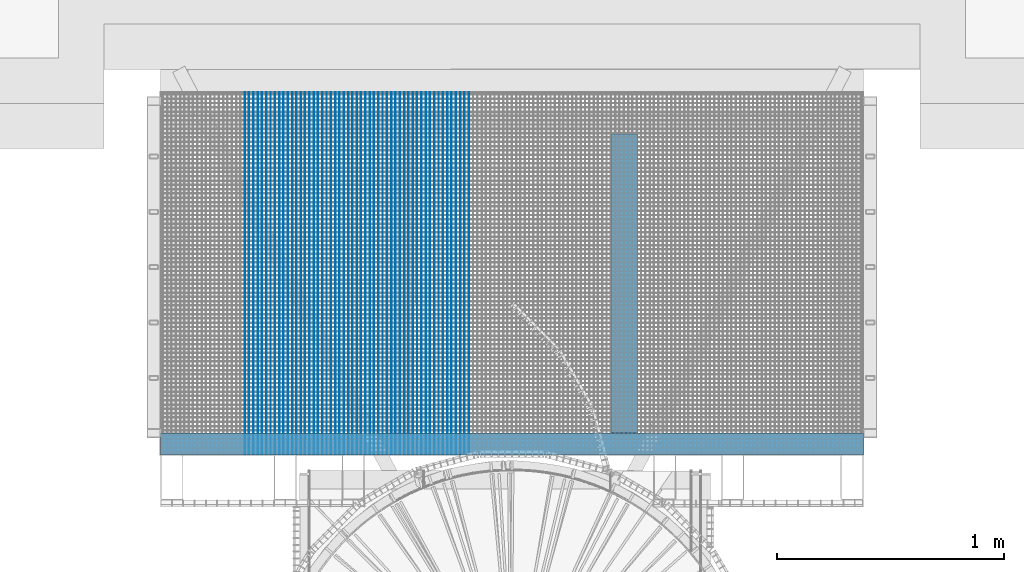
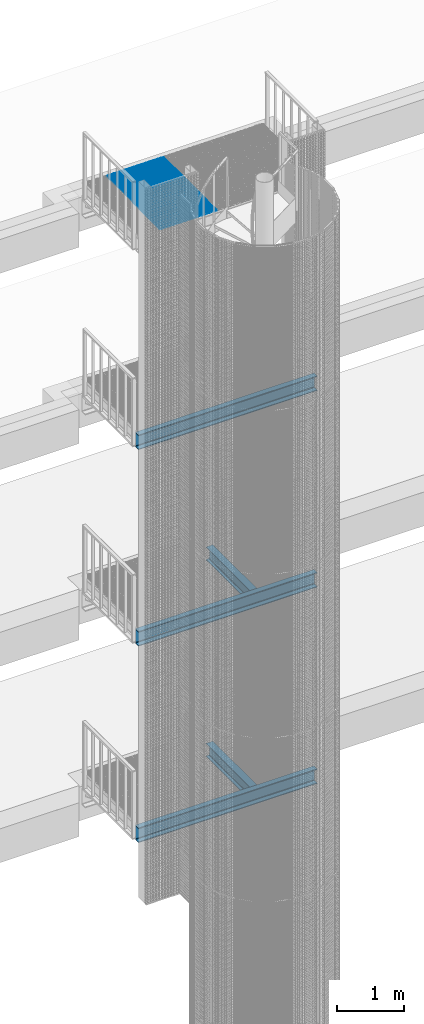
# One storey, part 93 of 1183: 58 beams, 6 elements without a shape of their own.
"""IFC2X3 building model written with IfcOpenShell, lengths in millimetres."""

from ifc_helpers import new_model, si_unit, frame, origin_with_axes, origin_2d_with_axis, place, context, subcontext, project, spatial, rectangle, i_section, u_section, extrude, material, type_object, element, aggregate, save


model = new_model("IFC2X3")

# Units and contexts
model_context = context("Model", 3, precision=1e-05, world=origin_with_axes())
body_context = subcontext(model_context, "Body", "Model", "MODEL_VIEW")
ifc_project = project(units=[si_unit("LENGTHUNIT", "METRE", prefix="MILLI"), si_unit("AREAUNIT", "SQUARE_METRE"), si_unit("VOLUMEUNIT", "CUBIC_METRE"), si_unit("MASSUNIT", "GRAM", prefix="KILO"), si_unit("TIMEUNIT", "SECOND"), si_unit("PLANEANGLEUNIT", "RADIAN"), si_unit("SOLIDANGLEUNIT", "STERADIAN"), si_unit("THERMODYNAMICTEMPERATUREUNIT", "DEGREE_CELSIUS"), si_unit("LUMINOUSINTENSITYUNIT", "LUMEN")], contexts=[model_context])

# Site, building, storey
site_placement = place(None, origin_with_axes())
site = spatial("IfcSite", under=ifc_project, at=site_placement, Name="Undefined", CompositionType="ELEMENT")
building_placement = place(site_placement, origin_with_axes())
building = spatial("IfcBuilding", under=site, at=building_placement, Name="Undefined", CompositionType="ELEMENT")
storey_placement = place(building_placement, origin_with_axes())
storey = spatial("IfcBuildingStorey", under=building, at=storey_placement, Name="Undefined", CompositionType="ELEMENT", Elevation=0.0)

# Assembly, beams
assembly_1_placement = place(storey_placement, origin_with_axes())
assembly_1 = element("IfcElementAssembly", 1, at=assembly_1_placement, inside=storey, Name="BORDURE", AssemblyPlace="NOTDEFINED", PredefinedType="NOTDEFINED")
ifc_material = material(Name="STEEL/S235JR")
beam_type_1 = type_object("IfcBeamType", Name="PL2*10", PredefinedType="NOTDEFINED")
beam_1_placement = place(assembly_1_placement, frame((20422.1154247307, 1101.99652091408, 17285.0), z_axis=(0.0, 0.0, 1.0), x_axis=(-4.50599999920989e-06, 0.999999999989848, 0.0)))
beam_1 = element("IfcBeam", 2, at=beam_1_placement, type_object=beam_type_1, material=ifc_material, Name="ENTRETOISE", context=body_context, shape_type="SweptSolid", body=[
    extrude(rectangle(XDim=2.0, YDim=10.0, at=origin_2d_with_axis()), frame((1596.0000000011, -1.35186458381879e-18, -7.27595761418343e-12), z_axis=(-1.0, 0.0, 0.0), x_axis=(0.0, -1.0, 0.0)), (0.0, 0.0, 1.0), 1596.0),
])
beam_2_placement = place(assembly_1_placement, frame((20441.1154247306, 1101.99661443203, 17285.0), z_axis=(0.0, 0.0, 1.0), x_axis=(-4.50599999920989e-06, 0.999999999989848, 0.0)))
beam_2 = element("IfcBeam", 3, at=beam_2_placement, type_object=beam_type_1, material=ifc_material, Name="ENTRETOISE", context=body_context, shape_type="SweptSolid", body=[
    extrude(rectangle(XDim=2.0, YDim=10.0, at=origin_2d_with_axis()), frame((1596.0000000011, -1.35186458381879e-18, -7.27595761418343e-12), z_axis=(-1.0, 0.0, 0.0), x_axis=(0.0, -1.0, 0.0)), (0.0, 0.0, 1.0), 1596.0),
])
beam_3_placement = place(assembly_1_placement, frame((20460.1154247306, 1101.99670794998, 17285.0), z_axis=(0.0, 0.0, 1.0), x_axis=(-4.50599999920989e-06, 0.999999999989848, 0.0)))
beam_3 = element("IfcBeam", 4, at=beam_3_placement, type_object=beam_type_1, material=ifc_material, Name="ENTRETOISE", context=body_context, shape_type="SweptSolid", body=[
    extrude(rectangle(XDim=2.0, YDim=10.0, at=origin_2d_with_axis()), frame((1596.0000000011, -1.35186458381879e-18, -7.27595761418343e-12), z_axis=(-1.0, 0.0, 0.0), x_axis=(0.0, -1.0, 0.0)), (0.0, 0.0, 1.0), 1596.0),
])
beam_4_placement = place(assembly_1_placement, frame((20479.1154247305, 1101.99680146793, 17285.0), z_axis=(0.0, 0.0, 1.0), x_axis=(-4.50599999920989e-06, 0.999999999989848, 0.0)))
beam_4 = element("IfcBeam", 5, at=beam_4_placement, type_object=beam_type_1, material=ifc_material, Name="ENTRETOISE", context=body_context, shape_type="SweptSolid", body=[
    extrude(rectangle(XDim=2.0, YDim=10.0, at=origin_2d_with_axis()), frame((1596.0000000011, -1.35186458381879e-18, -7.27595761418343e-12), z_axis=(-1.0, 0.0, 0.0), x_axis=(0.0, -1.0, 0.0)), (0.0, 0.0, 1.0), 1596.0),
])
beam_5_placement = place(assembly_1_placement, frame((20498.1154247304, 1101.99689498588, 17285.0), z_axis=(0.0, 0.0, 1.0), x_axis=(-4.50599999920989e-06, 0.999999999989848, 0.0)))
beam_5 = element("IfcBeam", 6, at=beam_5_placement, type_object=beam_type_1, material=ifc_material, Name="ENTRETOISE", context=body_context, shape_type="SweptSolid", body=[
    extrude(rectangle(XDim=2.0, YDim=10.0, at=origin_2d_with_axis()), frame((1596.0000000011, -1.35186458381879e-18, -7.27595761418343e-12), z_axis=(-1.0, 0.0, 0.0), x_axis=(0.0, -1.0, 0.0)), (0.0, 0.0, 1.0), 1596.0),
])
beam_6_placement = place(assembly_1_placement, frame((20517.1154247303, 1101.99698850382, 17285.0), z_axis=(0.0, 0.0, 1.0), x_axis=(-4.50599999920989e-06, 0.999999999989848, 0.0)))
beam_6 = element("IfcBeam", 7, at=beam_6_placement, type_object=beam_type_1, material=ifc_material, Name="ENTRETOISE", context=body_context, shape_type="SweptSolid", body=[
    extrude(rectangle(XDim=2.0, YDim=10.0, at=origin_2d_with_axis()), frame((1596.0000000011, -1.35186458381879e-18, -7.27595761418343e-12), z_axis=(-1.0, 0.0, 0.0), x_axis=(0.0, -1.0, 0.0)), (0.0, 0.0, 1.0), 1596.0),
])
beam_7_placement = place(assembly_1_placement, frame((20536.1154247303, 1101.99708202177, 17285.0), z_axis=(0.0, 0.0, 1.0), x_axis=(-4.50599999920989e-06, 0.999999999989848, 0.0)))
beam_7 = element("IfcBeam", 8, at=beam_7_placement, type_object=beam_type_1, material=ifc_material, Name="ENTRETOISE", context=body_context, shape_type="SweptSolid", body=[
    extrude(rectangle(XDim=2.0, YDim=10.0, at=origin_2d_with_axis()), frame((1596.0000000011, -1.35186458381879e-18, -7.27595761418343e-12), z_axis=(-1.0, 0.0, 0.0), x_axis=(0.0, -1.0, 0.0)), (0.0, 0.0, 1.0), 1596.0),
])
beam_8_placement = place(assembly_1_placement, frame((20555.1154247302, 1101.99717553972, 17285.0), z_axis=(0.0, 0.0, 1.0), x_axis=(-4.50599999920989e-06, 0.999999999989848, 0.0)))
beam_8 = element("IfcBeam", 9, at=beam_8_placement, type_object=beam_type_1, material=ifc_material, Name="ENTRETOISE", context=body_context, shape_type="SweptSolid", body=[
    extrude(rectangle(XDim=2.0, YDim=10.0, at=origin_2d_with_axis()), frame((1596.0000000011, -1.35186458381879e-18, -7.27595761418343e-12), z_axis=(-1.0, 0.0, 0.0), x_axis=(0.0, -1.0, 0.0)), (0.0, 0.0, 1.0), 1596.0),
])
beam_9_placement = place(assembly_1_placement, frame((20574.1154247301, 1101.99726905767, 17285.0), z_axis=(0.0, 0.0, 1.0), x_axis=(-4.50599999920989e-06, 0.999999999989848, 0.0)))
beam_9 = element("IfcBeam", 10, at=beam_9_placement, type_object=beam_type_1, material=ifc_material, Name="ENTRETOISE", context=body_context, shape_type="SweptSolid", body=[
    extrude(rectangle(XDim=2.0, YDim=10.0, at=origin_2d_with_axis()), frame((1596.0000000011, -1.35186458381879e-18, -7.27595761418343e-12), z_axis=(-1.0, 0.0, 0.0), x_axis=(0.0, -1.0, 0.0)), (0.0, 0.0, 1.0), 1596.0),
])
beam_10_placement = place(assembly_1_placement, frame((20593.1154247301, 1101.99736257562, 17285.0), z_axis=(0.0, 0.0, 1.0), x_axis=(-4.50599999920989e-06, 0.999999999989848, 0.0)))
beam_10 = element("IfcBeam", 11, at=beam_10_placement, type_object=beam_type_1, material=ifc_material, Name="ENTRETOISE", context=body_context, shape_type="SweptSolid", body=[
    extrude(rectangle(XDim=2.0, YDim=10.0, at=origin_2d_with_axis()), frame((1596.0000000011, -1.35186458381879e-18, -7.27595761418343e-12), z_axis=(-1.0, 0.0, 0.0), x_axis=(0.0, -1.0, 0.0)), (0.0, 0.0, 1.0), 1596.0),
])
beam_11_placement = place(assembly_1_placement, frame((20612.11542473, 1101.99745609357, 17285.0), z_axis=(0.0, 0.0, 1.0), x_axis=(-4.50599999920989e-06, 0.999999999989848, 0.0)))
beam_11 = element("IfcBeam", 12, at=beam_11_placement, type_object=beam_type_1, material=ifc_material, Name="ENTRETOISE", context=body_context, shape_type="SweptSolid", body=[
    extrude(rectangle(XDim=2.0, YDim=10.0, at=origin_2d_with_axis()), frame((1596.0000000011, -1.35186458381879e-18, -7.27595761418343e-12), z_axis=(-1.0, 0.0, 0.0), x_axis=(0.0, -1.0, 0.0)), (0.0, 0.0, 1.0), 1596.0),
])
beam_12_placement = place(assembly_1_placement, frame((20631.1154247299, 1101.99754961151, 17285.0), z_axis=(0.0, 0.0, 1.0), x_axis=(-4.50599999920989e-06, 0.999999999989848, 0.0)))
beam_12 = element("IfcBeam", 13, at=beam_12_placement, type_object=beam_type_1, material=ifc_material, Name="ENTRETOISE", context=body_context, shape_type="SweptSolid", body=[
    extrude(rectangle(XDim=2.0, YDim=10.0, at=origin_2d_with_axis()), frame((1596.0000000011, -1.35186458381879e-18, -7.27595761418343e-12), z_axis=(-1.0, 0.0, 0.0), x_axis=(0.0, -1.0, 0.0)), (0.0, 0.0, 1.0), 1596.0),
])
beam_13_placement = place(assembly_1_placement, frame((20650.1154247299, 1101.99764312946, 17285.0), z_axis=(0.0, 0.0, 1.0), x_axis=(-4.50599999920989e-06, 0.999999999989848, 0.0)))
beam_13 = element("IfcBeam", 14, at=beam_13_placement, type_object=beam_type_1, material=ifc_material, Name="ENTRETOISE", context=body_context, shape_type="SweptSolid", body=[
    extrude(rectangle(XDim=2.0, YDim=10.0, at=origin_2d_with_axis()), frame((1596.0000000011, -1.35186458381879e-18, -7.27595761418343e-12), z_axis=(-1.0, 0.0, 0.0), x_axis=(0.0, -1.0, 0.0)), (0.0, 0.0, 1.0), 1596.0),
])
beam_14_placement = place(assembly_1_placement, frame((20669.1154247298, 1101.99773664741, 17285.0), z_axis=(0.0, 0.0, 1.0), x_axis=(-4.50599999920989e-06, 0.999999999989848, 0.0)))
beam_14 = element("IfcBeam", 15, at=beam_14_placement, type_object=beam_type_1, material=ifc_material, Name="ENTRETOISE", context=body_context, shape_type="SweptSolid", body=[
    extrude(rectangle(XDim=2.0, YDim=10.0, at=origin_2d_with_axis()), frame((1596.0000000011, -1.35186458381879e-18, -7.27595761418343e-12), z_axis=(-1.0, 0.0, 0.0), x_axis=(0.0, -1.0, 0.0)), (0.0, 0.0, 1.0), 1596.0),
])
beam_15_placement = place(assembly_1_placement, frame((20688.1154247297, 1101.99783016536, 17285.0), z_axis=(0.0, 0.0, 1.0), x_axis=(-4.50599999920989e-06, 0.999999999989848, 0.0)))
beam_15 = element("IfcBeam", 16, at=beam_15_placement, type_object=beam_type_1, material=ifc_material, Name="ENTRETOISE", context=body_context, shape_type="SweptSolid", body=[
    extrude(rectangle(XDim=2.0, YDim=10.0, at=origin_2d_with_axis()), frame((1596.0000000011, -1.35186458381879e-18, -7.27595761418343e-12), z_axis=(-1.0, 0.0, 0.0), x_axis=(0.0, -1.0, 0.0)), (0.0, 0.0, 1.0), 1596.0),
])
beam_16_placement = place(assembly_1_placement, frame((20707.1154247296, 1101.99792368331, 17285.0), z_axis=(0.0, 0.0, 1.0), x_axis=(-4.50599999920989e-06, 0.999999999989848, 0.0)))
beam_16 = element("IfcBeam", 17, at=beam_16_placement, type_object=beam_type_1, material=ifc_material, Name="ENTRETOISE", context=body_context, shape_type="SweptSolid", body=[
    extrude(rectangle(XDim=2.0, YDim=10.0, at=origin_2d_with_axis()), frame((1596.0000000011, -1.35186458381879e-18, -7.27595761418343e-12), z_axis=(-1.0, 0.0, 0.0), x_axis=(0.0, -1.0, 0.0)), (0.0, 0.0, 1.0), 1596.0),
])
beam_17_placement = place(assembly_1_placement, frame((20726.1154247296, 1101.99801720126, 17285.0), z_axis=(0.0, 0.0, 1.0), x_axis=(-4.50599999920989e-06, 0.999999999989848, 0.0)))
beam_17 = element("IfcBeam", 18, at=beam_17_placement, type_object=beam_type_1, material=ifc_material, Name="ENTRETOISE", context=body_context, shape_type="SweptSolid", body=[
    extrude(rectangle(XDim=2.0, YDim=10.0, at=origin_2d_with_axis()), frame((1596.0000000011, -1.35186458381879e-18, -7.27595761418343e-12), z_axis=(-1.0, 0.0, 0.0), x_axis=(0.0, -1.0, 0.0)), (0.0, 0.0, 1.0), 1596.0),
])
beam_18_placement = place(assembly_1_placement, frame((20745.1154247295, 1101.99811071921, 17285.0), z_axis=(0.0, 0.0, 1.0), x_axis=(-4.50599999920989e-06, 0.999999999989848, 0.0)))
beam_18 = element("IfcBeam", 19, at=beam_18_placement, type_object=beam_type_1, material=ifc_material, Name="ENTRETOISE", context=body_context, shape_type="SweptSolid", body=[
    extrude(rectangle(XDim=2.0, YDim=10.0, at=origin_2d_with_axis()), frame((1596.0000000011, -1.35186458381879e-18, -7.27595761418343e-12), z_axis=(-1.0, 0.0, 0.0), x_axis=(0.0, -1.0, 0.0)), (0.0, 0.0, 1.0), 1596.0),
])
beam_19_placement = place(assembly_1_placement, frame((20764.1154247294, 1101.99820423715, 17285.0), z_axis=(0.0, 0.0, 1.0), x_axis=(-4.50599999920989e-06, 0.999999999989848, 0.0)))
beam_19 = element("IfcBeam", 20, at=beam_19_placement, type_object=beam_type_1, material=ifc_material, Name="ENTRETOISE", context=body_context, shape_type="SweptSolid", body=[
    extrude(rectangle(XDim=2.0, YDim=10.0, at=origin_2d_with_axis()), frame((1596.0000000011, -1.35186458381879e-18, -7.27595761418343e-12), z_axis=(-1.0, 0.0, 0.0), x_axis=(0.0, -1.0, 0.0)), (0.0, 0.0, 1.0), 1596.0),
])
beam_20_placement = place(assembly_1_placement, frame((20783.1154247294, 1101.9982977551, 17285.0), z_axis=(0.0, 0.0, 1.0), x_axis=(-4.50599999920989e-06, 0.999999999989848, 0.0)))
beam_20 = element("IfcBeam", 21, at=beam_20_placement, type_object=beam_type_1, material=ifc_material, Name="ENTRETOISE", context=body_context, shape_type="SweptSolid", body=[
    extrude(rectangle(XDim=2.0, YDim=10.0, at=origin_2d_with_axis()), frame((1596.0000000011, -1.35186458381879e-18, -7.27595761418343e-12), z_axis=(-1.0, 0.0, 0.0), x_axis=(0.0, -1.0, 0.0)), (0.0, 0.0, 1.0), 1596.0),
])
beam_21_placement = place(assembly_1_placement, frame((20802.1154247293, 1101.99839127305, 17285.0), z_axis=(0.0, 0.0, 1.0), x_axis=(-4.50599999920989e-06, 0.999999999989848, 0.0)))
beam_21 = element("IfcBeam", 22, at=beam_21_placement, type_object=beam_type_1, material=ifc_material, Name="ENTRETOISE", context=body_context, shape_type="SweptSolid", body=[
    extrude(rectangle(XDim=2.0, YDim=10.0, at=origin_2d_with_axis()), frame((1596.0000000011, -1.35186458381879e-18, -7.27595761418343e-12), z_axis=(-1.0, 0.0, 0.0), x_axis=(0.0, -1.0, 0.0)), (0.0, 0.0, 1.0), 1596.0),
])
beam_22_placement = place(assembly_1_placement, frame((20821.1154247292, 1101.998484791, 17285.0), z_axis=(0.0, 0.0, 1.0), x_axis=(-4.50599999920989e-06, 0.999999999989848, 0.0)))
beam_22 = element("IfcBeam", 23, at=beam_22_placement, type_object=beam_type_1, material=ifc_material, Name="ENTRETOISE", context=body_context, shape_type="SweptSolid", body=[
    extrude(rectangle(XDim=2.0, YDim=10.0, at=origin_2d_with_axis()), frame((1596.0000000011, -1.35186458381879e-18, -7.27595761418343e-12), z_axis=(-1.0, 0.0, 0.0), x_axis=(0.0, -1.0, 0.0)), (0.0, 0.0, 1.0), 1596.0),
])
beam_23_placement = place(assembly_1_placement, frame((20840.1154247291, 1101.99857830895, 17285.0), z_axis=(0.0, 0.0, 1.0), x_axis=(-4.50599999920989e-06, 0.999999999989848, 0.0)))
beam_23 = element("IfcBeam", 24, at=beam_23_placement, type_object=beam_type_1, material=ifc_material, Name="ENTRETOISE", context=body_context, shape_type="SweptSolid", body=[
    extrude(rectangle(XDim=2.0, YDim=10.0, at=origin_2d_with_axis()), frame((1596.0000000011, -1.35186458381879e-18, -7.27595761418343e-12), z_axis=(-1.0, 0.0, 0.0), x_axis=(0.0, -1.0, 0.0)), (0.0, 0.0, 1.0), 1596.0),
])
beam_24_placement = place(assembly_1_placement, frame((20859.1154247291, 1101.9986718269, 17285.0), z_axis=(0.0, 0.0, 1.0), x_axis=(-4.50599999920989e-06, 0.999999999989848, 0.0)))
beam_24 = element("IfcBeam", 25, at=beam_24_placement, type_object=beam_type_1, material=ifc_material, Name="ENTRETOISE", context=body_context, shape_type="SweptSolid", body=[
    extrude(rectangle(XDim=2.0, YDim=10.0, at=origin_2d_with_axis()), frame((1596.0000000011, -1.35186458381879e-18, -7.27595761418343e-12), z_axis=(-1.0, 0.0, 0.0), x_axis=(0.0, -1.0, 0.0)), (0.0, 0.0, 1.0), 1596.0),
])
beam_25_placement = place(assembly_1_placement, frame((20878.115424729, 1101.99876534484, 17285.0), z_axis=(0.0, 0.0, 1.0), x_axis=(-4.50599999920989e-06, 0.999999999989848, 0.0)))
beam_25 = element("IfcBeam", 26, at=beam_25_placement, type_object=beam_type_1, material=ifc_material, Name="ENTRETOISE", context=body_context, shape_type="SweptSolid", body=[
    extrude(rectangle(XDim=2.0, YDim=10.0, at=origin_2d_with_axis()), frame((1596.0000000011, -1.35186458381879e-18, -7.27595761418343e-12), z_axis=(-1.0, 0.0, 0.0), x_axis=(0.0, -1.0, 0.0)), (0.0, 0.0, 1.0), 1596.0),
])
beam_26_placement = place(assembly_1_placement, frame((20897.1154247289, 1101.99885886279, 17285.0), z_axis=(0.0, 0.0, 1.0), x_axis=(-4.50599999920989e-06, 0.999999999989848, 0.0)))
beam_26 = element("IfcBeam", 27, at=beam_26_placement, type_object=beam_type_1, material=ifc_material, Name="ENTRETOISE", context=body_context, shape_type="SweptSolid", body=[
    extrude(rectangle(XDim=2.0, YDim=10.0, at=origin_2d_with_axis()), frame((1596.0000000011, -1.35186458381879e-18, -7.27595761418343e-12), z_axis=(-1.0, 0.0, 0.0), x_axis=(0.0, -1.0, 0.0)), (0.0, 0.0, 1.0), 1596.0),
])
beam_27_placement = place(assembly_1_placement, frame((20916.1154247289, 1101.99895238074, 17285.0), z_axis=(0.0, 0.0, 1.0), x_axis=(-4.50599999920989e-06, 0.999999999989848, 0.0)))
beam_27 = element("IfcBeam", 28, at=beam_27_placement, type_object=beam_type_1, material=ifc_material, Name="ENTRETOISE", context=body_context, shape_type="SweptSolid", body=[
    extrude(rectangle(XDim=2.0, YDim=10.0, at=origin_2d_with_axis()), frame((1596.0000000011, -1.35186458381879e-18, -7.27595761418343e-12), z_axis=(-1.0, 0.0, 0.0), x_axis=(0.0, -1.0, 0.0)), (0.0, 0.0, 1.0), 1596.0),
])
beam_28_placement = place(assembly_1_placement, frame((20935.1154247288, 1101.99904589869, 17285.0), z_axis=(0.0, 0.0, 1.0), x_axis=(-4.50599999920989e-06, 0.999999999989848, 0.0)))
beam_28 = element("IfcBeam", 29, at=beam_28_placement, type_object=beam_type_1, material=ifc_material, Name="ENTRETOISE", context=body_context, shape_type="SweptSolid", body=[
    extrude(rectangle(XDim=2.0, YDim=10.0, at=origin_2d_with_axis()), frame((1596.0000000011, -1.35186458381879e-18, -7.27595761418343e-12), z_axis=(-1.0, 0.0, 0.0), x_axis=(0.0, -1.0, 0.0)), (0.0, 0.0, 1.0), 1596.0),
])
beam_29_placement = place(assembly_1_placement, frame((20954.1154247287, 1101.99913941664, 17285.0), z_axis=(0.0, 0.0, 1.0), x_axis=(-4.50599999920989e-06, 0.999999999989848, 0.0)))
beam_29 = element("IfcBeam", 30, at=beam_29_placement, type_object=beam_type_1, material=ifc_material, Name="ENTRETOISE", context=body_context, shape_type="SweptSolid", body=[
    extrude(rectangle(XDim=2.0, YDim=10.0, at=origin_2d_with_axis()), frame((1596.0000000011, -1.35186458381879e-18, -7.27595761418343e-12), z_axis=(-1.0, 0.0, 0.0), x_axis=(0.0, -1.0, 0.0)), (0.0, 0.0, 1.0), 1596.0),
])
beam_30_placement = place(assembly_1_placement, frame((20973.1154247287, 1101.99923293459, 17285.0), z_axis=(0.0, 0.0, 1.0), x_axis=(-4.50599999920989e-06, 0.999999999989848, 0.0)))
beam_30 = element("IfcBeam", 31, at=beam_30_placement, type_object=beam_type_1, material=ifc_material, Name="ENTRETOISE", context=body_context, shape_type="SweptSolid", body=[
    extrude(rectangle(XDim=2.0, YDim=10.0, at=origin_2d_with_axis()), frame((1596.0000000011, -1.35186458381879e-18, -7.27595761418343e-12), z_axis=(-1.0, 0.0, 0.0), x_axis=(0.0, -1.0, 0.0)), (0.0, 0.0, 1.0), 1596.0),
])
beam_31_placement = place(assembly_1_placement, frame((20992.1154247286, 1101.99932645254, 17285.0), z_axis=(0.0, 0.0, 1.0), x_axis=(-4.50599999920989e-06, 0.999999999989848, 0.0)))
beam_31 = element("IfcBeam", 32, at=beam_31_placement, type_object=beam_type_1, material=ifc_material, Name="ENTRETOISE", context=body_context, shape_type="SweptSolid", body=[
    extrude(rectangle(XDim=2.0, YDim=10.0, at=origin_2d_with_axis()), frame((1596.0000000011, -1.35186458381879e-18, -7.27595761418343e-12), z_axis=(-1.0, 0.0, 0.0), x_axis=(0.0, -1.0, 0.0)), (0.0, 0.0, 1.0), 1596.0),
])
beam_32_placement = place(assembly_1_placement, frame((21011.1154247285, 1101.99941997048, 17285.0), z_axis=(0.0, 0.0, 1.0), x_axis=(-4.50599999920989e-06, 0.999999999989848, 0.0)))
beam_32 = element("IfcBeam", 33, at=beam_32_placement, type_object=beam_type_1, material=ifc_material, Name="ENTRETOISE", context=body_context, shape_type="SweptSolid", body=[
    extrude(rectangle(XDim=2.0, YDim=10.0, at=origin_2d_with_axis()), frame((1596.0000000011, -1.35186458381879e-18, -7.27595761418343e-12), z_axis=(-1.0, 0.0, 0.0), x_axis=(0.0, -1.0, 0.0)), (0.0, 0.0, 1.0), 1596.0),
])
beam_33_placement = place(assembly_1_placement, frame((21030.1154247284, 1101.99951348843, 17285.0), z_axis=(0.0, 0.0, 1.0), x_axis=(-4.50599999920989e-06, 0.999999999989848, 0.0)))
beam_33 = element("IfcBeam", 34, at=beam_33_placement, type_object=beam_type_1, material=ifc_material, Name="ENTRETOISE", context=body_context, shape_type="SweptSolid", body=[
    extrude(rectangle(XDim=2.0, YDim=10.0, at=origin_2d_with_axis()), frame((1596.0000000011, -1.35186458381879e-18, -7.27595761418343e-12), z_axis=(-1.0, 0.0, 0.0), x_axis=(0.0, -1.0, 0.0)), (0.0, 0.0, 1.0), 1596.0),
])
beam_34_placement = place(assembly_1_placement, frame((21049.1154247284, 1101.99960700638, 17285.0), z_axis=(0.0, 0.0, 1.0), x_axis=(-4.50599999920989e-06, 0.999999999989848, 0.0)))
beam_34 = element("IfcBeam", 35, at=beam_34_placement, type_object=beam_type_1, material=ifc_material, Name="ENTRETOISE", context=body_context, shape_type="SweptSolid", body=[
    extrude(rectangle(XDim=2.0, YDim=10.0, at=origin_2d_with_axis()), frame((1596.0000000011, -1.35186458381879e-18, -7.27595761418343e-12), z_axis=(-1.0, 0.0, 0.0), x_axis=(0.0, -1.0, 0.0)), (0.0, 0.0, 1.0), 1596.0),
])
beam_35_placement = place(assembly_1_placement, frame((21068.1154247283, 1101.99970052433, 17285.0), z_axis=(0.0, 0.0, 1.0), x_axis=(-4.50599999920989e-06, 0.999999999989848, 0.0)))
beam_35 = element("IfcBeam", 36, at=beam_35_placement, type_object=beam_type_1, material=ifc_material, Name="ENTRETOISE", context=body_context, shape_type="SweptSolid", body=[
    extrude(rectangle(XDim=2.0, YDim=10.0, at=origin_2d_with_axis()), frame((1596.0000000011, -1.35186458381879e-18, -7.27595761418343e-12), z_axis=(-1.0, 0.0, 0.0), x_axis=(0.0, -1.0, 0.0)), (0.0, 0.0, 1.0), 1596.0),
])
beam_36_placement = place(assembly_1_placement, frame((21087.1154247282, 1101.99979404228, 17285.0), z_axis=(0.0, 0.0, 1.0), x_axis=(-4.50599999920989e-06, 0.999999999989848, 0.0)))
beam_36 = element("IfcBeam", 37, at=beam_36_placement, type_object=beam_type_1, material=ifc_material, Name="ENTRETOISE", context=body_context, shape_type="SweptSolid", body=[
    extrude(rectangle(XDim=2.0, YDim=10.0, at=origin_2d_with_axis()), frame((1596.0000000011, -1.35186458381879e-18, -7.27595761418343e-12), z_axis=(-1.0, 0.0, 0.0), x_axis=(0.0, -1.0, 0.0)), (0.0, 0.0, 1.0), 1596.0),
])
beam_37_placement = place(assembly_1_placement, frame((21106.1154247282, 1101.99988756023, 17285.0), z_axis=(0.0, 0.0, 1.0), x_axis=(-4.50599999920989e-06, 0.999999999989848, 0.0)))
beam_37 = element("IfcBeam", 38, at=beam_37_placement, type_object=beam_type_1, material=ifc_material, Name="ENTRETOISE", context=body_context, shape_type="SweptSolid", body=[
    extrude(rectangle(XDim=2.0, YDim=10.0, at=origin_2d_with_axis()), frame((1596.0000000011, -1.35186458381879e-18, -7.27595761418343e-12), z_axis=(-1.0, 0.0, 0.0), x_axis=(0.0, -1.0, 0.0)), (0.0, 0.0, 1.0), 1596.0),
])
beam_38_placement = place(assembly_1_placement, frame((21125.1154247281, 1101.99998107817, 17285.0), z_axis=(0.0, 0.0, 1.0), x_axis=(-4.50599999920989e-06, 0.999999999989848, 0.0)))
beam_38 = element("IfcBeam", 39, at=beam_38_placement, type_object=beam_type_1, material=ifc_material, Name="ENTRETOISE", context=body_context, shape_type="SweptSolid", body=[
    extrude(rectangle(XDim=2.0, YDim=10.0, at=origin_2d_with_axis()), frame((1596.0000000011, -1.35186458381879e-18, -7.27595761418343e-12), z_axis=(-1.0, 0.0, 0.0), x_axis=(0.0, -1.0, 0.0)), (0.0, 0.0, 1.0), 1596.0),
])
beam_39_placement = place(assembly_1_placement, frame((21144.115424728, 1102.00007459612, 17285.0), z_axis=(0.0, 0.0, 1.0), x_axis=(-4.50599999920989e-06, 0.999999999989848, 0.0)))
beam_39 = element("IfcBeam", 40, at=beam_39_placement, type_object=beam_type_1, material=ifc_material, Name="ENTRETOISE", context=body_context, shape_type="SweptSolid", body=[
    extrude(rectangle(XDim=2.0, YDim=10.0, at=origin_2d_with_axis()), frame((1596.0000000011, -1.35186458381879e-18, -7.27595761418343e-12), z_axis=(-1.0, 0.0, 0.0), x_axis=(0.0, -1.0, 0.0)), (0.0, 0.0, 1.0), 1596.0),
])
beam_40_placement = place(assembly_1_placement, frame((21163.1154247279, 1102.00016811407, 17285.0), z_axis=(0.0, 0.0, 1.0), x_axis=(-4.50599999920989e-06, 0.999999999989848, 0.0)))
beam_40 = element("IfcBeam", 41, at=beam_40_placement, type_object=beam_type_1, material=ifc_material, Name="ENTRETOISE", context=body_context, shape_type="SweptSolid", body=[
    extrude(rectangle(XDim=2.0, YDim=10.0, at=origin_2d_with_axis()), frame((1596.0000000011, -1.35186458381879e-18, -7.27595761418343e-12), z_axis=(-1.0, 0.0, 0.0), x_axis=(0.0, -1.0, 0.0)), (0.0, 0.0, 1.0), 1596.0),
])
beam_41_placement = place(assembly_1_placement, frame((21182.1154247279, 1102.00026163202, 17285.0), z_axis=(0.0, 0.0, 1.0), x_axis=(-4.50599999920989e-06, 0.999999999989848, 0.0)))
beam_41 = element("IfcBeam", 42, at=beam_41_placement, type_object=beam_type_1, material=ifc_material, Name="ENTRETOISE", context=body_context, shape_type="SweptSolid", body=[
    extrude(rectangle(XDim=2.0, YDim=10.0, at=origin_2d_with_axis()), frame((1596.0000000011, -1.35186458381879e-18, -7.27595761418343e-12), z_axis=(-1.0, 0.0, 0.0), x_axis=(0.0, -1.0, 0.0)), (0.0, 0.0, 1.0), 1596.0),
])
beam_42_placement = place(assembly_1_placement, frame((21201.1154247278, 1102.00035514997, 17285.0), z_axis=(0.0, 0.0, 1.0), x_axis=(-4.50599999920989e-06, 0.999999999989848, 0.0)))
beam_42 = element("IfcBeam", 43, at=beam_42_placement, type_object=beam_type_1, material=ifc_material, Name="ENTRETOISE", context=body_context, shape_type="SweptSolid", body=[
    extrude(rectangle(XDim=2.0, YDim=10.0, at=origin_2d_with_axis()), frame((1596.0000000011, -1.35186458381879e-18, -7.27595761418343e-12), z_axis=(-1.0, 0.0, 0.0), x_axis=(0.0, -1.0, 0.0)), (0.0, 0.0, 1.0), 1596.0),
])
beam_43_placement = place(assembly_1_placement, frame((21220.1154247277, 1102.00044866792, 17285.0), z_axis=(0.0, 0.0, 1.0), x_axis=(-4.50599999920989e-06, 0.999999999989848, 0.0)))
beam_43 = element("IfcBeam", 44, at=beam_43_placement, type_object=beam_type_1, material=ifc_material, Name="ENTRETOISE", context=body_context, shape_type="SweptSolid", body=[
    extrude(rectangle(XDim=2.0, YDim=10.0, at=origin_2d_with_axis()), frame((1596.0000000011, -1.35186458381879e-18, -7.27595761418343e-12), z_axis=(-1.0, 0.0, 0.0), x_axis=(0.0, -1.0, 0.0)), (0.0, 0.0, 1.0), 1596.0),
])
beam_44_placement = place(assembly_1_placement, frame((21239.1154247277, 1102.00054218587, 17285.0), z_axis=(0.0, 0.0, 1.0), x_axis=(-4.50599999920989e-06, 0.999999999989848, 0.0)))
beam_44 = element("IfcBeam", 45, at=beam_44_placement, type_object=beam_type_1, material=ifc_material, Name="ENTRETOISE", context=body_context, shape_type="SweptSolid", body=[
    extrude(rectangle(XDim=2.0, YDim=10.0, at=origin_2d_with_axis()), frame((1596.0000000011, -1.35186458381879e-18, -7.27595761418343e-12), z_axis=(-1.0, 0.0, 0.0), x_axis=(0.0, -1.0, 0.0)), (0.0, 0.0, 1.0), 1596.0),
])
beam_45_placement = place(assembly_1_placement, frame((21258.1154247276, 1102.00063570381, 17285.0), z_axis=(0.0, 0.0, 1.0), x_axis=(-4.50599999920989e-06, 0.999999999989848, 0.0)))
beam_45 = element("IfcBeam", 46, at=beam_45_placement, type_object=beam_type_1, material=ifc_material, Name="ENTRETOISE", context=body_context, shape_type="SweptSolid", body=[
    extrude(rectangle(XDim=2.0, YDim=10.0, at=origin_2d_with_axis()), frame((1596.0000000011, -1.35186458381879e-18, -7.27595761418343e-12), z_axis=(-1.0, 0.0, 0.0), x_axis=(0.0, -1.0, 0.0)), (0.0, 0.0, 1.0), 1596.0),
])
beam_46_placement = place(assembly_1_placement, frame((21277.1154247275, 1102.00072922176, 17285.0), z_axis=(0.0, 0.0, 1.0), x_axis=(-4.50599999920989e-06, 0.999999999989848, 0.0)))
beam_46 = element("IfcBeam", 47, at=beam_46_placement, type_object=beam_type_1, material=ifc_material, Name="ENTRETOISE", context=body_context, shape_type="SweptSolid", body=[
    extrude(rectangle(XDim=2.0, YDim=10.0, at=origin_2d_with_axis()), frame((1596.0000000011, -1.35186458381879e-18, -7.27595761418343e-12), z_axis=(-1.0, 0.0, 0.0), x_axis=(0.0, -1.0, 0.0)), (0.0, 0.0, 1.0), 1596.0),
])
beam_47_placement = place(assembly_1_placement, frame((21296.1154247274, 1102.00082273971, 17285.0), z_axis=(0.0, 0.0, 1.0), x_axis=(-4.50599999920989e-06, 0.999999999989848, 0.0)))
beam_47 = element("IfcBeam", 48, at=beam_47_placement, type_object=beam_type_1, material=ifc_material, Name="ENTRETOISE", context=body_context, shape_type="SweptSolid", body=[
    extrude(rectangle(XDim=2.0, YDim=10.0, at=origin_2d_with_axis()), frame((1596.0000000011, -1.35186458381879e-18, -7.27595761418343e-12), z_axis=(-1.0, 0.0, 0.0), x_axis=(0.0, -1.0, 0.0)), (0.0, 0.0, 1.0), 1596.0),
])
beam_48_placement = place(assembly_1_placement, frame((21315.1154247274, 1102.00091625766, 17285.0), z_axis=(0.0, 0.0, 1.0), x_axis=(-4.50599999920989e-06, 0.999999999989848, 0.0)))
beam_48 = element("IfcBeam", 49, at=beam_48_placement, type_object=beam_type_1, material=ifc_material, Name="ENTRETOISE", context=body_context, shape_type="SweptSolid", body=[
    extrude(rectangle(XDim=2.0, YDim=10.0, at=origin_2d_with_axis()), frame((1596.0000000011, -1.35186458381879e-18, -7.27595761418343e-12), z_axis=(-1.0, 0.0, 0.0), x_axis=(0.0, -1.0, 0.0)), (0.0, 0.0, 1.0), 1596.0),
])
beam_49_placement = place(assembly_1_placement, frame((21334.1154247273, 1102.00100977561, 17285.0), z_axis=(0.0, 0.0, 1.0), x_axis=(-4.50599999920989e-06, 0.999999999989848, 0.0)))
beam_49 = element("IfcBeam", 50, at=beam_49_placement, type_object=beam_type_1, material=ifc_material, Name="ENTRETOISE", context=body_context, shape_type="SweptSolid", body=[
    extrude(rectangle(XDim=2.0, YDim=10.0, at=origin_2d_with_axis()), frame((1596.0000000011, -1.35186458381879e-18, -7.27595761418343e-12), z_axis=(-1.0, 0.0, 0.0), x_axis=(0.0, -1.0, 0.0)), (0.0, 0.0, 1.0), 1596.0),
])
beam_50_placement = place(assembly_1_placement, frame((21353.1154247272, 1102.00110329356, 17285.0), z_axis=(0.0, 0.0, 1.0), x_axis=(-4.50599999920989e-06, 0.999999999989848, 0.0)))
beam_50 = element("IfcBeam", 51, at=beam_50_placement, type_object=beam_type_1, material=ifc_material, Name="ENTRETOISE", context=body_context, shape_type="SweptSolid", body=[
    extrude(rectangle(XDim=2.0, YDim=10.0, at=origin_2d_with_axis()), frame((1596.0000000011, -1.35186458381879e-18, -7.27595761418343e-12), z_axis=(-1.0, 0.0, 0.0), x_axis=(0.0, -1.0, 0.0)), (0.0, 0.0, 1.0), 1596.0),
])
beam_51_placement = place(assembly_1_placement, frame((21372.1154247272, 1102.0011968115, 17285.0), z_axis=(0.0, 0.0, 1.0), x_axis=(-4.50599999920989e-06, 0.999999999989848, 0.0)))
beam_51 = element("IfcBeam", 52, at=beam_51_placement, type_object=beam_type_1, material=ifc_material, Name="ENTRETOISE", context=body_context, shape_type="SweptSolid", body=[
    extrude(rectangle(XDim=2.0, YDim=10.0, at=origin_2d_with_axis()), frame((1596.0000000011, -1.35186458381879e-18, -7.27595761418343e-12), z_axis=(-1.0, 0.0, 0.0), x_axis=(0.0, -1.0, 0.0)), (0.0, 0.0, 1.0), 1596.0),
])
beam_52_placement = place(assembly_1_placement, frame((21391.1154247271, 1102.00129032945, 17285.0), z_axis=(0.0, 0.0, 1.0), x_axis=(-4.50599999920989e-06, 0.999999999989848, 0.0)))
beam_52 = element("IfcBeam", 53, at=beam_52_placement, type_object=beam_type_1, material=ifc_material, Name="ENTRETOISE", context=body_context, shape_type="SweptSolid", body=[
    extrude(rectangle(XDim=2.0, YDim=10.0, at=origin_2d_with_axis()), frame((1596.0000000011, -1.35186458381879e-18, -7.27595761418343e-12), z_axis=(-1.0, 0.0, 0.0), x_axis=(0.0, -1.0, 0.0)), (0.0, 0.0, 1.0), 1596.0),
])
beam_53_placement = place(assembly_1_placement, frame((21410.115424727, 1102.0013838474, 17285.0), z_axis=(0.0, 0.0, 1.0), x_axis=(-4.50599999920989e-06, 0.999999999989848, 0.0)))
beam_53 = element("IfcBeam", 54, at=beam_53_placement, type_object=beam_type_1, material=ifc_material, Name="ENTRETOISE", context=body_context, shape_type="SweptSolid", body=[
    extrude(rectangle(XDim=2.0, YDim=10.0, at=origin_2d_with_axis()), frame((1596.0000000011, -1.35186458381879e-18, -7.27595761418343e-12), z_axis=(-1.0, 0.0, 0.0), x_axis=(0.0, -1.0, 0.0)), (0.0, 0.0, 1.0), 1596.0),
])
aggregate(assembly_1, [beam_1, beam_2, beam_3, beam_4, beam_5, beam_6, beam_7, beam_8, beam_9, beam_10, beam_11, beam_12, beam_13, beam_14, beam_15, beam_16, beam_17, beam_18, beam_19, beam_20, beam_21, beam_22, beam_23, beam_24, beam_25, beam_26, beam_27, beam_28, beam_29, beam_30, beam_31, beam_32, beam_33, beam_34, beam_35, beam_36, beam_37, beam_38, beam_39, beam_40, beam_41, beam_42, beam_43, beam_44, beam_45, beam_46, beam_47, beam_48, beam_49, beam_50, beam_51, beam_52, beam_53])

# Assembly, beam
assembly_2_placement = place(storey_placement, origin_with_axes())
assembly_2 = element("IfcElementAssembly", 55, at=assembly_2_placement, inside=storey, AssemblyPlace="NOTDEFINED", PredefinedType="NOTDEFINED")
beam_type_2 = type_object("IfcBeamType", Name="IPE240", PredefinedType="NOTDEFINED")
beam_54_placement = place(assembly_2_placement, frame((22096.7804345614, 1195.00994809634, 9920.0), z_axis=(0.0, 0.0, 1.0), x_axis=(-4.50599999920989e-06, 0.999999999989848, 0.0)))
beam_54 = element("IfcBeam", 56, at=beam_54_placement, type_object=beam_type_2, material=ifc_material, Name="EXISTANTS", context=body_context, shape_type="SweptSolid", body=[
    extrude(i_section(OverallWidth=120.0, OverallDepth=240.0, WebThickness=6.199999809, FlangeThickness=9.800000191, FilletRadius=15.0, at=origin_2d_with_axis()), frame((1319.99832798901, 0.0, -3.63797880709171e-12), z_axis=(-1.0, 0.0, 0.0), x_axis=(0.0, -1.0, 0.0)), (0.0, 0.0, 1.0), 1320.0),
])
aggregate(assembly_2, [beam_54])

assembly_3_placement = place(storey_placement, origin_with_axes())
assembly_3 = element("IfcElementAssembly", 57, at=assembly_3_placement, inside=storey, AssemblyPlace="NOTDEFINED", PredefinedType="NOTDEFINED")
beam_55_placement = place(assembly_3_placement, frame((22096.7804345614, 1195.00994809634, 6320.0), z_axis=(0.0, 0.0, 1.0), x_axis=(-4.50599999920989e-06, 0.999999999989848, 0.0)))
beam_55 = element("IfcBeam", 58, at=beam_55_placement, type_object=beam_type_2, material=ifc_material, Name="EXISTANTS", context=body_context, shape_type="SweptSolid", body=[
    extrude(i_section(OverallWidth=120.0, OverallDepth=240.0, WebThickness=6.199999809, FlangeThickness=9.800000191, FilletRadius=15.0, at=origin_2d_with_axis()), frame((1319.99832798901, 0.0, -3.63797880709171e-12), z_axis=(-1.0, 0.0, 0.0), x_axis=(0.0, -1.0, 0.0)), (0.0, 0.0, 1.0), 1320.0),
])
aggregate(assembly_3, [beam_55])

assembly_4_placement = place(storey_placement, origin_with_axes())
assembly_4 = element("IfcElementAssembly", 59, at=assembly_4_placement, inside=storey, AssemblyPlace="NOTDEFINED", PredefinedType="NOTDEFINED")
beam_type_3 = type_object("IfcBeamType", Name="UPE270", PredefinedType="NOTDEFINED")
beam_56_placement = place(assembly_4_placement, frame((20050.119356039, 1147.49468994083, 13505.0), z_axis=(0.0, 0.0, 1.0), x_axis=(0.999999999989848, 4.50600000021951e-06, 0.0)))
beam_56 = element("IfcBeam", 60, at=beam_56_placement, type_object=beam_type_3, material=ifc_material, Name="EXISTANTS", context=body_context, shape_type="SweptSolid", body=[
    extrude(u_section(Depth=270.0, FlangeWidth=95.0, WebThickness=7.5, FlangeThickness=13.5, FilletRadius=15.0, at=origin_2d_with_axis()), frame((3099.99084151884, -4.54747022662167e-13, 3.63797880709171e-12), z_axis=(-1.0, 0.0, 0.0), x_axis=(0.0, -1.0, 0.0)), (0.0, 0.0, 1.0), 3099.99),
])
aggregate(assembly_4, [beam_56])

assembly_5_placement = place(storey_placement, origin_with_axes())
assembly_5 = element("IfcElementAssembly", 61, at=assembly_5_placement, inside=storey, AssemblyPlace="NOTDEFINED", PredefinedType="NOTDEFINED")
beam_57_placement = place(assembly_5_placement, frame((20050.119356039, 1147.49468994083, 9905.0), z_axis=(0.0, 0.0, 1.0), x_axis=(0.999999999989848, 4.50600000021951e-06, 0.0)))
beam_57 = element("IfcBeam", 62, at=beam_57_placement, type_object=beam_type_3, material=ifc_material, Name="EXISTANTS", context=body_context, shape_type="SweptSolid", body=[
    extrude(u_section(Depth=270.0, FlangeWidth=95.0, WebThickness=7.5, FlangeThickness=13.5, FilletRadius=15.0, at=origin_2d_with_axis()), frame((3099.99084151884, -4.54747022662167e-13, 3.63797880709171e-12), z_axis=(-1.0, 0.0, 0.0), x_axis=(0.0, -1.0, 0.0)), (0.0, 0.0, 1.0), 3099.99),
])
aggregate(assembly_5, [beam_57])

assembly_6_placement = place(storey_placement, origin_with_axes())
assembly_6 = element("IfcElementAssembly", 63, at=assembly_6_placement, inside=storey, AssemblyPlace="NOTDEFINED", PredefinedType="NOTDEFINED")
beam_58_placement = place(assembly_6_placement, frame((20050.119356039, 1147.49468994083, 6305.0), z_axis=(0.0, 0.0, 1.0), x_axis=(0.999999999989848, 4.50600000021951e-06, 0.0)))
beam_58 = element("IfcBeam", 64, at=beam_58_placement, type_object=beam_type_3, material=ifc_material, Name="EXISTANTS", context=body_context, shape_type="SweptSolid", body=[
    extrude(u_section(Depth=270.0, FlangeWidth=95.0, WebThickness=7.5, FlangeThickness=13.5, FilletRadius=15.0, at=origin_2d_with_axis()), frame((3099.99084151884, -4.54747022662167e-13, 3.63797880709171e-12), z_axis=(-1.0, 0.0, 0.0), x_axis=(0.0, -1.0, 0.0)), (0.0, 0.0, 1.0), 3099.99),
])
aggregate(assembly_6, [beam_58])

save(model, "model.ifc")
